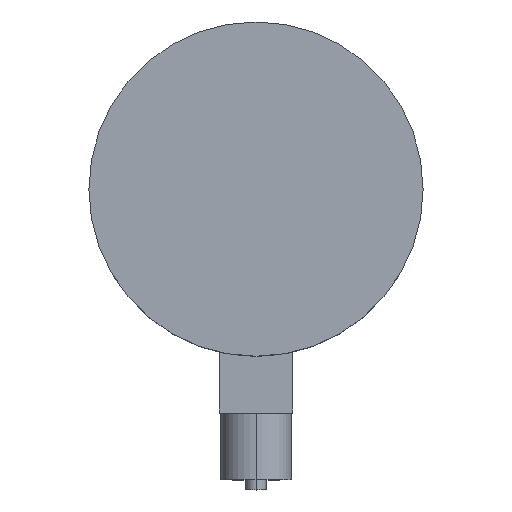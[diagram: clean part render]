
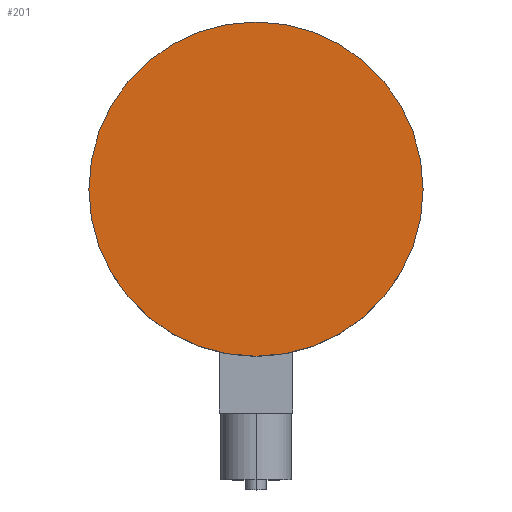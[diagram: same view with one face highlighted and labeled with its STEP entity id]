
A CAD part, top view. The second image highlights one B-rep face of the part: STEP entity #201.
In plain terms, the highlighted planar face has unit normal (0, 0, 1).
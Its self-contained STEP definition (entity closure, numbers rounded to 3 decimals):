
#35 = FACE_OUTER_BOUND ( 'NONE', #299, .T. ) ;
#41 = CIRCLE ( 'NONE', #126, 50. ) ;
#56 = DIRECTION ( 'NONE',  ( 0., 0., 1. ) ) ;
#66 = AXIS2_PLACEMENT_3D ( 'NONE', #290, #410, #451 ) ;
#74 = PLANE ( 'NONE',  #66 ) ;
#91 = AXIS2_PLACEMENT_3D ( 'NONE', #350, #56, #433 ) ;
#110 = EDGE_CURVE ( 'NONE', #343, #251, #41, .T. ) ;
#117 = ORIENTED_EDGE ( 'NONE', *, *, #110, .T. ) ;
#126 = AXIS2_PLACEMENT_3D ( 'NONE', #134, #362, #355 ) ;
#134 = CARTESIAN_POINT ( 'NONE',  ( 0., 0., 44. ) ) ;
#139 = CARTESIAN_POINT ( 'NONE',  ( 50., 0., 44. ) ) ;
#201 = ADVANCED_FACE ( 'NONE', ( #35 ), #74, .T. ) ;
#233 = CARTESIAN_POINT ( 'NONE',  ( -50., 0., 44. ) ) ;
#251 = VERTEX_POINT ( 'NONE', #139 ) ;
#290 = CARTESIAN_POINT ( 'NONE',  ( 0., 0., 44. ) ) ;
#299 = EDGE_LOOP ( 'NONE', ( #117, #377 ) ) ;
#343 = VERTEX_POINT ( 'NONE', #233 ) ;
#350 = CARTESIAN_POINT ( 'NONE',  ( 0., 0., 44. ) ) ;
#355 = DIRECTION ( 'NONE',  ( 1., 0., 0. ) ) ;
#362 = DIRECTION ( 'NONE',  ( 0., 0., 1. ) ) ;
#377 = ORIENTED_EDGE ( 'NONE', *, *, #465, .T. ) ;
#382 = CIRCLE ( 'NONE', #91, 50. ) ;
#410 = DIRECTION ( 'NONE',  ( 0., 0., 1. ) ) ;
#433 = DIRECTION ( 'NONE',  ( 1., 0., 0. ) ) ;
#451 = DIRECTION ( 'NONE',  ( 1., 0., 0. ) ) ;
#465 = EDGE_CURVE ( 'NONE', #251, #343, #382, .T. ) ;
